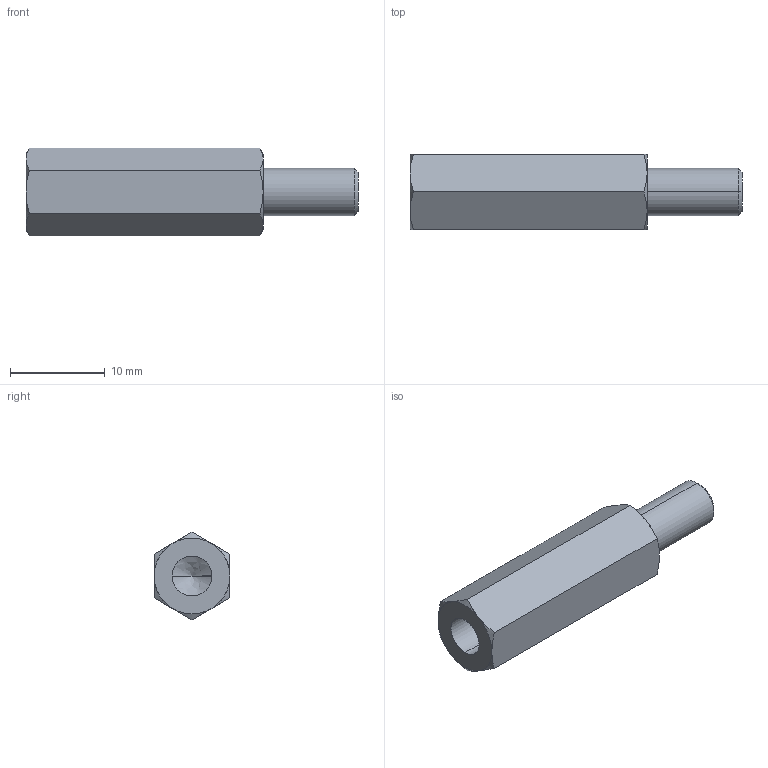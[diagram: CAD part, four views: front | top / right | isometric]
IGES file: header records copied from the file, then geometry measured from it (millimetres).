
Start section: SolidWorks IGES file using analytic representation for surfaces
Global section: file name: C:\Users\render1\Desktop\P0185_IGES\P0185.05-25.igs; native system: SolidWorks 2009; preprocessor: SolidWorks 2009; author: render1; date: 130627.112517; units: millimetre
Bounding box: 35 x 8 x 9.24 mm (x, y, z)
Surface area: 1085.8 mm2 (no closed solid volume)
Topology: 0 solids, 0 shells, 29 faces, 324 edges, 322 vertices
Faces by surface type: revolution 20, bspline 9
